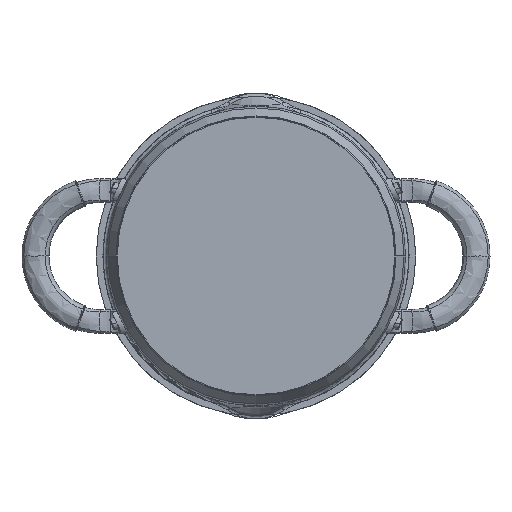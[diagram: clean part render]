
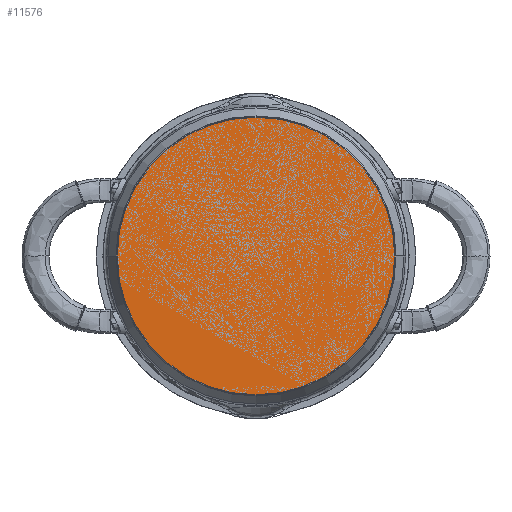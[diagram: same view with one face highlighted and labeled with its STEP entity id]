
A CAD part, front view. The second image highlights one B-rep face of the part: STEP entity #11576.
In plain terms, the highlighted planar face has unit normal (0, -1, 0).
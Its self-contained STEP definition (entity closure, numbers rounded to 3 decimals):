
#11409=CARTESIAN_POINT('',(0.,-0.4,0.));
#11410=DIRECTION('',(0.,1.,0.));
#11411=DIRECTION('',(1.,0.,0.));
#11412=AXIS2_PLACEMENT_3D('',#11409,#11410,#11411);
#11414=CARTESIAN_POINT('',(0.,-0.4,0.));
#11415=DIRECTION('',(0.,1.,0.));
#11416=DIRECTION('',(-1.,0.,0.));
#11417=AXIS2_PLACEMENT_3D('',#11414,#11415,#11416);
#11505=CARTESIAN_POINT('',(93.349,-0.4,0.));
#11506=CARTESIAN_POINT('',(-93.349,-0.4,0.));
#11507=VERTEX_POINT('',#11505);
#11508=VERTEX_POINT('',#11506);
#11567=CARTESIAN_POINT('',(0.,-0.4,0.));
#11568=DIRECTION('',(0.,-1.,0.));
#11569=DIRECTION('',(-1.,0.,0.));
#11570=AXIS2_PLACEMENT_3D('',#11567,#11568,#11569);
#11571=PLANE('',#11570);
#11572=ORIENTED_EDGE('',*,*,#11561,.T.);
#11573=ORIENTED_EDGE('',*,*,#11518,.T.);
#11574=EDGE_LOOP('',(#11572,#11573));
#11575=FACE_OUTER_BOUND('',#11574,.F.);
#11576=ADVANCED_FACE('',(#11575),#11571,.T.);
#11413=CIRCLE('',#11412,93.349);
#11418=CIRCLE('',#11417,93.349);
#11518=EDGE_CURVE('',#11508,#11507,#11418,.T.);
#11561=EDGE_CURVE('',#11507,#11508,#11413,.T.);
